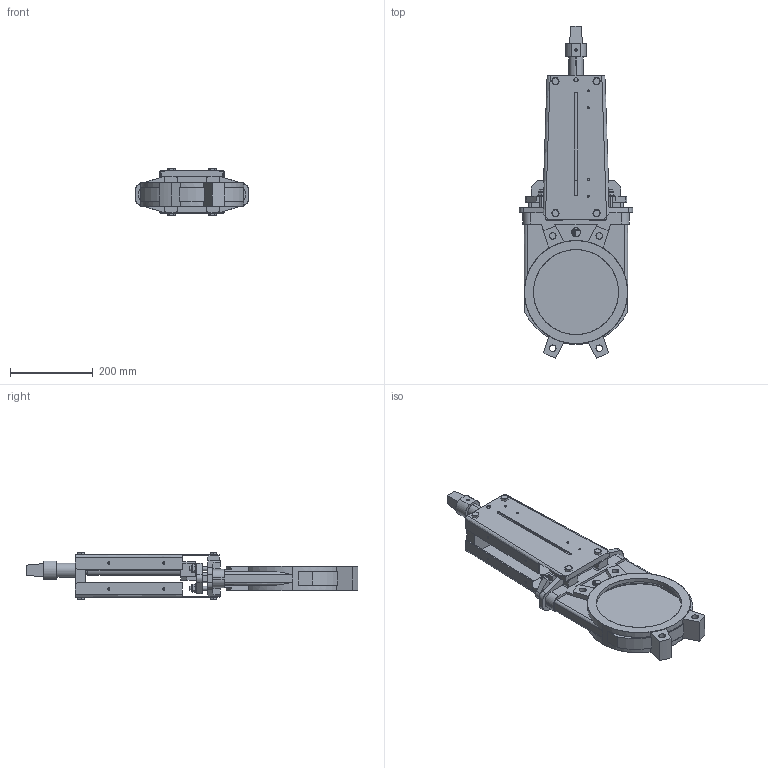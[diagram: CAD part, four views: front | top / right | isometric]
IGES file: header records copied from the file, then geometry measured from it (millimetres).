
Start section: SolidWorks IGES file using analytic representation for surfaces
Global section: file name: D:\part\3D Projects\VG-SQUARE OPERATING NON RASING(DN50-600)\VG S N DN200\VG S N DN200.IGS; native system: SolidWorks 2009; preprocessor: SolidWorks 2009; author: zhixin.zheng; date: 100504.150713; units: millimetre
Bounding box: 275 x 804.7 x 115.8 mm (x, y, z)
Surface area: 723984.8 mm2 (no closed solid volume)
Topology: 0 solids, 0 shells, 715 faces, 7820 edges, 7820 vertices
Faces by surface type: bspline 439, revolution 276
